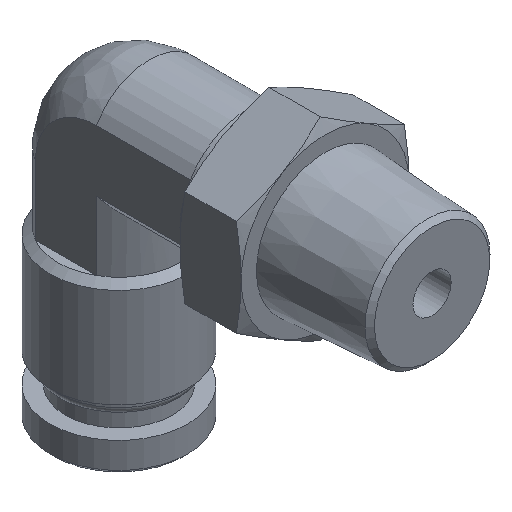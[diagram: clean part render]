
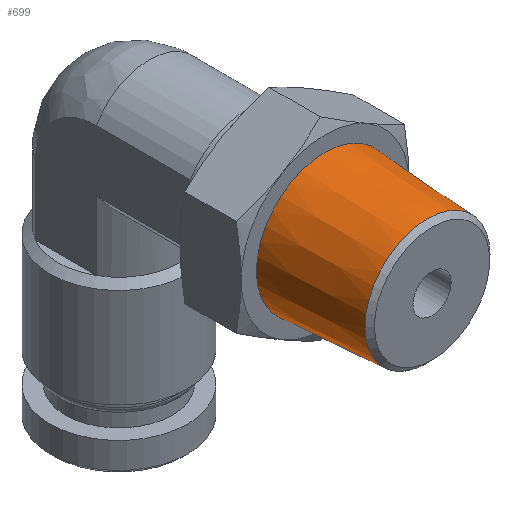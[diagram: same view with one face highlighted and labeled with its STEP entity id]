
A CAD part, isometric view. The second image highlights one B-rep face of the part: STEP entity #699.
In plain terms, the highlighted conical face has half-angle 3.5 degrees and reference radius 4.286 mm.
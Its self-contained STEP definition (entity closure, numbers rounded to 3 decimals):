
#83=FACE_OUTER_BOUND('',#133,.T.);
#133=EDGE_LOOP('',(#476,#477,#478,#479,#480));
#188=LINE('',#1115,#218);
#218=VECTOR('',#886,4.286);
#248=CIRCLE('',#771,4.09);
#249=CIRCLE('',#772,4.09);
#251=CIRCLE('',#776,4.5);
#299=VERTEX_POINT('',#1105);
#300=VERTEX_POINT('',#1107);
#302=VERTEX_POINT('',#1114);
#365=EDGE_CURVE('',#299,#300,#248,.T.);
#366=EDGE_CURVE('',#300,#299,#249,.T.);
#368=EDGE_CURVE('',#300,#302,#188,.T.);
#369=EDGE_CURVE('',#302,#302,#251,.T.);
#476=ORIENTED_EDGE('',*,*,#365,.F.);
#477=ORIENTED_EDGE('',*,*,#366,.F.);
#478=ORIENTED_EDGE('',*,*,#368,.T.);
#479=ORIENTED_EDGE('',*,*,#369,.F.);
#480=ORIENTED_EDGE('',*,*,#368,.F.);
#682=CONICAL_SURFACE('',#775,4.286,0.061);
#699=ADVANCED_FACE('',(#83),#682,.T.);
#771=AXIS2_PLACEMENT_3D('',#1108,#876,#877);
#772=AXIS2_PLACEMENT_3D('',#1109,#878,#879);
#775=AXIS2_PLACEMENT_3D('',#1113,#884,#885);
#776=AXIS2_PLACEMENT_3D('',#1116,#887,#888);
#876=DIRECTION('center_axis',(0.,-1.,0.));
#877=DIRECTION('ref_axis',(0.,0.,1.));
#878=DIRECTION('center_axis',(0.,-1.,0.));
#879=DIRECTION('ref_axis',(0.,0.,1.));
#884=DIRECTION('center_axis',(0.,1.,0.));
#885=DIRECTION('ref_axis',(0.,0.,-1.));
#886=DIRECTION('',(0.,0.998,0.061));
#887=DIRECTION('center_axis',(0.,1.,0.));
#888=DIRECTION('ref_axis',(0.,0.,-1.));
#1105=CARTESIAN_POINT('',(0.,-11.701,-4.09));
#1107=CARTESIAN_POINT('',(0.,-11.701,4.09));
#1108=CARTESIAN_POINT('Origin',(0.,-11.701,0.));
#1109=CARTESIAN_POINT('Origin',(0.,-11.701,0.));
#1113=CARTESIAN_POINT('Origin',(0.,-8.5,0.));
#1114=CARTESIAN_POINT('',(0.,-5.,4.5));
#1115=CARTESIAN_POINT('',(0.,-8.5,4.286));
#1116=CARTESIAN_POINT('Origin',(0.,-5.,0.));
